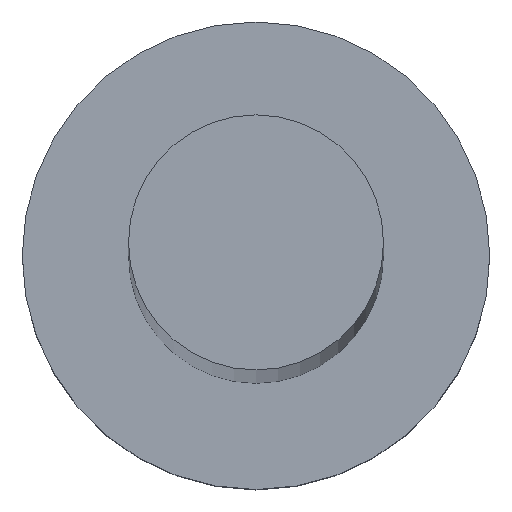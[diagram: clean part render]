
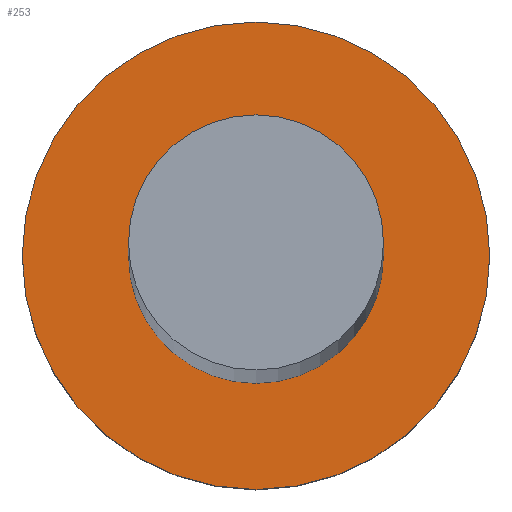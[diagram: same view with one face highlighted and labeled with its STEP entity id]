
A CAD part, top view. The second image highlights one B-rep face of the part: STEP entity #253.
In plain terms, the highlighted planar face has unit normal (0, 0, 1).
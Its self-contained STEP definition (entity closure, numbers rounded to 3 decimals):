
#2 = CARTESIAN_POINT ( 'NONE',  ( 2.75, 0., 0. ) ) ;
#3 = DIRECTION ( 'NONE',  ( 0., 0., 1. ) ) ;
#5 = CARTESIAN_POINT ( 'NONE',  ( 0., 0., 0. ) ) ;
#15 = ORIENTED_EDGE ( 'NONE', *, *, #118, .T. ) ;
#16 = CARTESIAN_POINT ( 'NONE',  ( 0., 0., 0. ) ) ;
#31 = VERTEX_POINT ( 'NONE', #161 ) ;
#32 = AXIS2_PLACEMENT_3D ( 'NONE', #77, #81, #219 ) ;
#34 = VERTEX_POINT ( 'NONE', #144 ) ;
#36 = CIRCLE ( 'NONE', #186, 1.5 ) ;
#39 = CARTESIAN_POINT ( 'NONE',  ( 0., 0., 0. ) ) ;
#41 = AXIS2_PLACEMENT_3D ( 'NONE', #158, #3, #138 ) ;
#44 = CARTESIAN_POINT ( 'NONE',  ( 1.5, 0., 0. ) ) ;
#55 = EDGE_LOOP ( 'NONE', ( #93, #117 ) ) ;
#62 = PLANE ( 'NONE',  #136 ) ;
#73 = EDGE_CURVE ( 'NONE', #34, #173, #242, .T. ) ;
#75 = ORIENTED_EDGE ( 'NONE', *, *, #133, .T. ) ;
#76 = VERTEX_POINT ( 'NONE', #2 ) ;
#77 = CARTESIAN_POINT ( 'NONE',  ( 0., 0., 0. ) ) ;
#79 = DIRECTION ( 'NONE',  ( 1., 0., 0. ) ) ;
#81 = DIRECTION ( 'NONE',  ( 0., 0., 1. ) ) ;
#83 = EDGE_CURVE ( 'NONE', #173, #34, #36, .T. ) ;
#88 = FACE_BOUND ( 'NONE', #55, .T. ) ;
#93 = ORIENTED_EDGE ( 'NONE', *, *, #73, .F. ) ;
#101 = DIRECTION ( 'NONE',  ( 1., 0., 0. ) ) ;
#115 = CIRCLE ( 'NONE', #32, 2.75 ) ;
#117 = ORIENTED_EDGE ( 'NONE', *, *, #83, .F. ) ;
#118 = EDGE_CURVE ( 'NONE', #76, #31, #143, .T. ) ;
#121 = DIRECTION ( 'NONE',  ( 0., 0., 1. ) ) ;
#133 = EDGE_CURVE ( 'NONE', #31, #76, #115, .T. ) ;
#136 = AXIS2_PLACEMENT_3D ( 'NONE', #5, #164, #241 ) ;
#138 = DIRECTION ( 'NONE',  ( 1., 0., 0. ) ) ;
#143 = CIRCLE ( 'NONE', #251, 2.75 ) ;
#144 = CARTESIAN_POINT ( 'NONE',  ( -1.5, 0., 0. ) ) ;
#158 = CARTESIAN_POINT ( 'NONE',  ( 0., 0., 0. ) ) ;
#161 = CARTESIAN_POINT ( 'NONE',  ( -2.75, 0., 0. ) ) ;
#164 = DIRECTION ( 'NONE',  ( 0., 0., 1. ) ) ;
#173 = VERTEX_POINT ( 'NONE', #44 ) ;
#178 = DIRECTION ( 'NONE',  ( 0., 0., 1. ) ) ;
#183 = FACE_OUTER_BOUND ( 'NONE', #191, .T. ) ;
#186 = AXIS2_PLACEMENT_3D ( 'NONE', #16, #178, #101 ) ;
#191 = EDGE_LOOP ( 'NONE', ( #75, #15 ) ) ;
#219 = DIRECTION ( 'NONE',  ( 1., 0., 0. ) ) ;
#241 = DIRECTION ( 'NONE',  ( 1., 0., 0. ) ) ;
#242 = CIRCLE ( 'NONE', #41, 1.5 ) ;
#251 = AXIS2_PLACEMENT_3D ( 'NONE', #39, #121, #79 ) ;
#253 = ADVANCED_FACE ( 'NONE', ( #88, #183 ), #62, .T. ) ;
